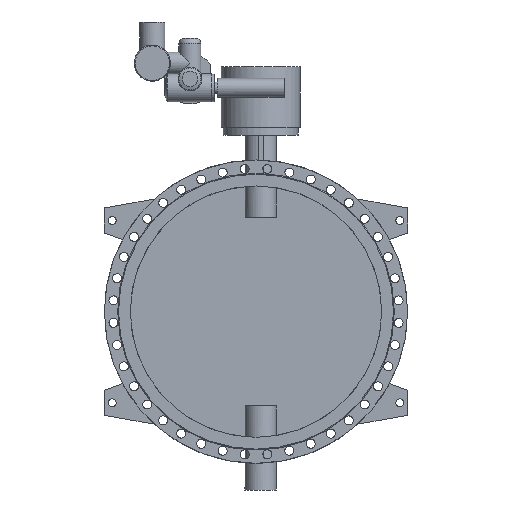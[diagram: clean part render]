
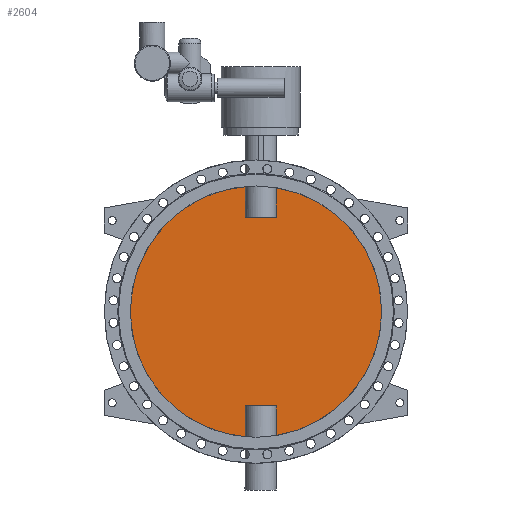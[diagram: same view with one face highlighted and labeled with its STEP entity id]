
A CAD part, front view. The second image highlights one B-rep face of the part: STEP entity #2604.
In plain terms, the highlighted planar face has unit normal (0, -1, 0).
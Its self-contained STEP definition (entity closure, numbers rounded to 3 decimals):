
#2604=ADVANCED_FACE('',(#5361),#5363,.F.);
#5361=FACE_BOUND('',#5362,.T.);
#5362=EDGE_LOOP('',(#6527,#6528,#6529,#6530,#6531,#6532,#6533,#6534));
#5363=PLANE('',#5364);
#5364=AXIS2_PLACEMENT_3D('',#5365,#5366,#5367);
#5365=CARTESIAN_POINT('',(0.,-5.,0.));
#5366=DIRECTION('',(0.,1.,0.));
#5367=DIRECTION('',(1.,0.,0.));
#6527=ORIENTED_EDGE('',*,*,#7111,.T.);
#6528=ORIENTED_EDGE('',*,*,#7116,.T.);
#6529=ORIENTED_EDGE('',*,*,#7117,.T.);
#6530=ORIENTED_EDGE('',*,*,#7118,.T.);
#6531=ORIENTED_EDGE('',*,*,#7113,.T.);
#6532=ORIENTED_EDGE('',*,*,#7119,.T.);
#6533=ORIENTED_EDGE('',*,*,#7120,.T.);
#6534=ORIENTED_EDGE('',*,*,#7121,.T.);
#7111=EDGE_CURVE('',#8153,#8154,#8155,.F.);
#7113=EDGE_CURVE('',#8158,#8156,#8159,.F.);
#7116=EDGE_CURVE('',#8154,#8163,#8164,.T.);
#7117=EDGE_CURVE('',#8163,#8165,#8166,.F.);
#7118=EDGE_CURVE('',#8165,#8158,#8167,.F.);
#7119=EDGE_CURVE('',#8156,#8168,#8169,.F.);
#7120=EDGE_CURVE('',#8168,#8170,#8171,.F.);
#7121=EDGE_CURVE('',#8170,#8153,#8172,.T.);
#8153=VERTEX_POINT('',#12518);
#8154=VERTEX_POINT('',#12519);
#8155=CIRCLE('',#12520,800.);
#8156=VERTEX_POINT('',#12524);
#8158=VERTEX_POINT('',#12624);
#8159=CIRCLE('',#12625,800.);
#8163=VERTEX_POINT('',#12724);
#8164=LINE('',#12725,#12726);
#8165=VERTEX_POINT('',#12728);
#8166=LINE('',#12729,#12730);
#8167=LINE('',#12732,#12733);
#8168=VERTEX_POINT('',#12735);
#8169=LINE('',#12736,#12737);
#8170=VERTEX_POINT('',#12739);
#8171=LINE('',#12740,#12741);
#8172=LINE('',#12743,#12744);
#12518=CARTESIAN_POINT('',(129.875,-5.,-789.387));
#12519=CARTESIAN_POINT('',(129.875,-5.,789.387));
#12520=AXIS2_PLACEMENT_3D('',#12521,#12522,#12523);
#12521=CARTESIAN_POINT('',(0.,-5.,0.));
#12522=DIRECTION('',(0.,1.,0.));
#12523=DIRECTION('',(0.162,0.,0.987));
#12524=CARTESIAN_POINT('',(-69.875,-5.,-796.943));
#12624=CARTESIAN_POINT('',(-69.875,-5.,796.943));
#12625=AXIS2_PLACEMENT_3D('',#12626,#12627,#12628);
#12626=CARTESIAN_POINT('',(0.,-5.,0.));
#12627=DIRECTION('',(0.,1.,0.));
#12628=DIRECTION('',(-0.087,0.,-0.996));
#12724=CARTESIAN_POINT('',(129.875,-5.,600.));
#12725=CARTESIAN_POINT('',(129.875,-5.,789.387));
#12726=VECTOR('',#12727,1.);
#12727=DIRECTION('',(0.,0.,-1.));
#12728=CARTESIAN_POINT('',(-69.875,-5.,600.));
#12729=CARTESIAN_POINT('',(-69.875,-5.,600.));
#12730=VECTOR('',#12731,1.);
#12731=DIRECTION('',(1.,0.,0.));
#12732=CARTESIAN_POINT('',(-69.875,-5.,796.943));
#12733=VECTOR('',#12734,1.);
#12734=DIRECTION('',(0.,0.,-1.));
#12735=CARTESIAN_POINT('',(-69.875,-5.,-600.));
#12736=CARTESIAN_POINT('',(-69.875,-5.,-600.));
#12737=VECTOR('',#12738,1.);
#12738=DIRECTION('',(0.,0.,-1.));
#12739=CARTESIAN_POINT('',(129.875,-5.,-600.));
#12740=CARTESIAN_POINT('',(129.875,-5.,-600.));
#12741=VECTOR('',#12742,1.);
#12742=DIRECTION('',(-1.,0.,0.));
#12743=CARTESIAN_POINT('',(129.875,-5.,-600.));
#12744=VECTOR('',#12745,1.);
#12745=DIRECTION('',(0.,0.,-1.));
